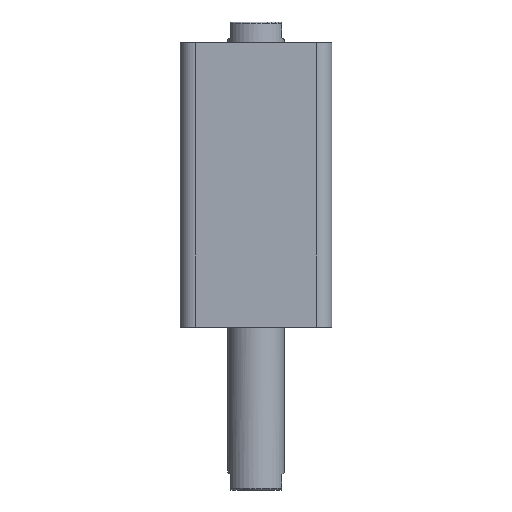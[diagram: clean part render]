
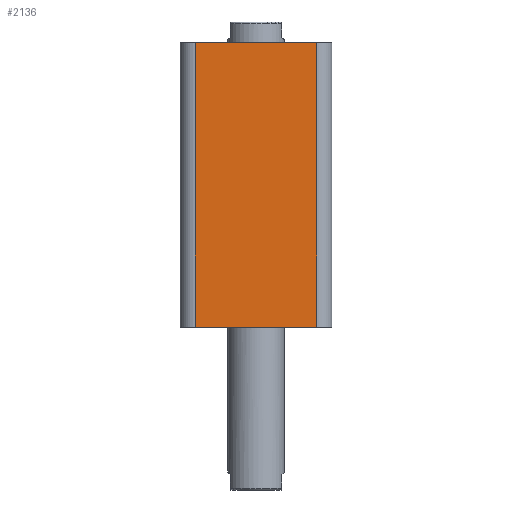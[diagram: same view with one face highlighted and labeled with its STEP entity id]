
A CAD part, front view. The second image highlights one B-rep face of the part: STEP entity #2136.
In plain terms, the highlighted planar face has unit normal (0, -1, 0).
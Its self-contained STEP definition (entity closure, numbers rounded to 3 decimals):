
#151 = DIRECTION ( 'NONE',  ( 0., 0., 1. ) ) ;
#167 = CARTESIAN_POINT ( 'NONE',  ( -40., -40., 0. ) ) ;
#168 = CARTESIAN_POINT ( 'NONE',  ( 32., -40., 150. ) ) ;
#172 = DIRECTION ( 'NONE',  ( 1., 0., 0. ) ) ;
#173 = CARTESIAN_POINT ( 'NONE',  ( -32., -40., 150. ) ) ;
#174 = DIRECTION ( 'NONE',  ( 0., 0., -1. ) ) ;
#175 = CARTESIAN_POINT ( 'NONE',  ( -40., -40., 150. ) ) ;
#176 = DIRECTION ( 'NONE',  ( 1., 0., 0. ) ) ;
#879 = EDGE_LOOP ( 'NONE', ( #2022, #2023, #2024, #2025 ) ) ;
#1014 = FACE_OUTER_BOUND ( 'NONE', #879, .T. ) ;
#1058 = LINE ( 'NONE', #168, #1061 ) ;
#1059 = LINE ( 'NONE', #167, #1063 ) ;
#1061 = VECTOR ( 'NONE', #151, 1000. ) ;
#1062 = LINE ( 'NONE', #173, #1065 ) ;
#1063 = VECTOR ( 'NONE', #172, 1000. ) ;
#1064 = LINE ( 'NONE', #175, #1067 ) ;
#1065 = VECTOR ( 'NONE', #174, 1000. ) ;
#1067 = VECTOR ( 'NONE', #176, 1000. ) ;
#1530 = CARTESIAN_POINT ( 'NONE',  ( 32., -40., 0. ) ) ;
#1547 = CARTESIAN_POINT ( 'NONE',  ( -32., -40., 0. ) ) ;
#2013 = VERTEX_POINT ( 'NONE', #2745 ) ;
#2022 = ORIENTED_EDGE ( 'NONE', *, *, #2180, .F. ) ;
#2023 = ORIENTED_EDGE ( 'NONE', *, *, #2179, .T. ) ;
#2024 = ORIENTED_EDGE ( 'NONE', *, *, #2178, .T. ) ;
#2025 = ORIENTED_EDGE ( 'NONE', *, *, #2177, .T. ) ;
#2037 = VERTEX_POINT ( 'NONE', #2767 ) ;
#2136 = ADVANCED_FACE ( 'NONE', ( #1014 ), #3084, .F. ) ;
#2177 = EDGE_CURVE ( 'NONE', #3193, #2037, #1058, .T. ) ;
#2178 = EDGE_CURVE ( 'NONE', #3201, #3193, #1059, .T. ) ;
#2179 = EDGE_CURVE ( 'NONE', #2013, #3201, #1062, .T. ) ;
#2180 = EDGE_CURVE ( 'NONE', #2013, #2037, #1064, .T. ) ;
#2390 = AXIS2_PLACEMENT_3D ( 'NONE', #3080, #3086, #3087 ) ;
#2745 = CARTESIAN_POINT ( 'NONE',  ( -32., -40., 150. ) ) ;
#2767 = CARTESIAN_POINT ( 'NONE',  ( 32., -40., 150. ) ) ;
#3080 = CARTESIAN_POINT ( 'NONE',  ( -40., -40., 150. ) ) ;
#3084 = PLANE ( 'NONE',  #2390 ) ;
#3086 = DIRECTION ( 'NONE',  ( 0., 1., 0. ) ) ;
#3087 = DIRECTION ( 'NONE',  ( 0., 0., 1. ) ) ;
#3193 = VERTEX_POINT ( 'NONE', #1530 ) ;
#3201 = VERTEX_POINT ( 'NONE', #1547 ) ;
